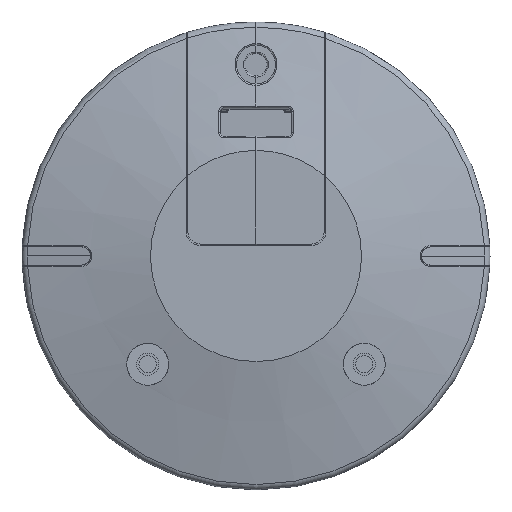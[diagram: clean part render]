
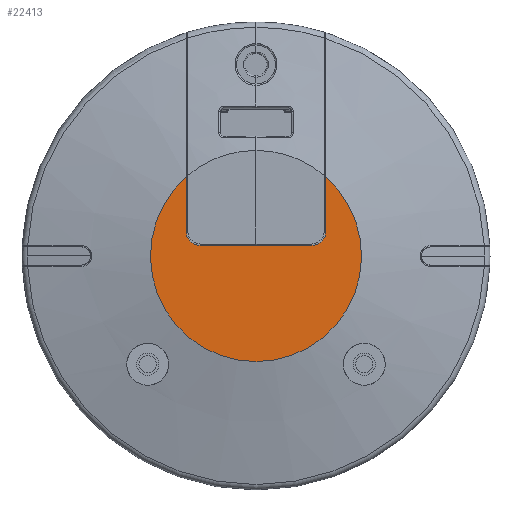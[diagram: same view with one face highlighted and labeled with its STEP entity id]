
A CAD part, front view. The second image highlights one B-rep face of the part: STEP entity #22413.
In plain terms, the highlighted planar face has unit normal (0, -1, 0).
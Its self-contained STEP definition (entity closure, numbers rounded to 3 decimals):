
#966 = VERTEX_POINT ( 'NONE', #37719 ) ;
#1340 = AXIS2_PLACEMENT_3D ( 'NONE', #36674, #40326, #15765 ) ;
#1614 = DIRECTION ( 'NONE',  ( 0., 0., -1. ) ) ;
#2037 = DIRECTION ( 'NONE',  ( 0., 0., -1. ) ) ;
#2265 = EDGE_CURVE ( 'NONE', #4895, #17400, #44780, .T. ) ;
#4895 = VERTEX_POINT ( 'NONE', #19363 ) ;
#5767 = ORIENTED_EDGE ( 'NONE', *, *, #14557, .T. ) ;
#6268 = CARTESIAN_POINT ( 'NONE',  ( 10., -8., 1.5 ) ) ;
#8733 = VECTOR ( 'NONE', #35096, 1000. ) ;
#9332 = DIRECTION ( 'NONE',  ( 0., 1., 0. ) ) ;
#10408 = DIRECTION ( 'NONE',  ( 0., -1., 0. ) ) ;
#11293 = VECTOR ( 'NONE', #19559, 1000. ) ;
#13239 = EDGE_CURVE ( 'NONE', #966, #42862, #37549, .T. ) ;
#13644 = DIRECTION ( 'NONE',  ( 0., 0., -1. ) ) ;
#14557 = EDGE_CURVE ( 'NONE', #17400, #37434, #18975, .T. ) ;
#14567 = CIRCLE ( 'NONE', #16029, 2. ) ;
#15381 = DIRECTION ( 'NONE',  ( 0., -1., 0. ) ) ;
#15765 = DIRECTION ( 'NONE',  ( 0., 0., -1. ) ) ;
#16029 = AXIS2_PLACEMENT_3D ( 'NONE', #34200, #9332, #37260 ) ;
#16389 = CIRCLE ( 'NONE', #1340, 2. ) ;
#17400 = VERTEX_POINT ( 'NONE', #18570 ) ;
#17513 = ORIENTED_EDGE ( 'NONE', *, *, #2265, .T. ) ;
#17653 = CARTESIAN_POINT ( 'NONE',  ( 10., -8., 3.5 ) ) ;
#17752 = EDGE_LOOP ( 'NONE', ( #5767, #19557, #39980, #40146, #29665, #17513 ) ) ;
#18570 = CARTESIAN_POINT ( 'NONE',  ( 10., -8., 11.331 ) ) ;
#18975 = LINE ( 'NONE', #36559, #36872 ) ;
#19363 = CARTESIAN_POINT ( 'NONE',  ( -10., -8., 11.331 ) ) ;
#19557 = ORIENTED_EDGE ( 'NONE', *, *, #41527, .T. ) ;
#19559 = DIRECTION ( 'NONE',  ( 0., 0., 1. ) ) ;
#22413 = ADVANCED_FACE ( 'NONE', ( #35864 ), #35990, .T. ) ;
#22762 = LINE ( 'NONE', #26643, #11293 ) ;
#23374 = EDGE_CURVE ( 'NONE', #30604, #4895, #22762, .T. ) ;
#26643 = CARTESIAN_POINT ( 'NONE',  ( -10., -8., 6.5 ) ) ;
#29665 = ORIENTED_EDGE ( 'NONE', *, *, #23374, .T. ) ;
#30604 = VERTEX_POINT ( 'NONE', #39101 ) ;
#31144 = EDGE_CURVE ( 'NONE', #42862, #30604, #14567, .T. ) ;
#34200 = CARTESIAN_POINT ( 'NONE',  ( -8., -8., 3.5 ) ) ;
#35096 = DIRECTION ( 'NONE',  ( -1., 0., 0. ) ) ;
#35864 = FACE_OUTER_BOUND ( 'NONE', #17752, .T. ) ;
#35990 = PLANE ( 'NONE',  #39765 ) ;
#36146 = CARTESIAN_POINT ( 'NONE',  ( 0., -8., 0. ) ) ;
#36559 = CARTESIAN_POINT ( 'NONE',  ( 10., -8., 6.5 ) ) ;
#36674 = CARTESIAN_POINT ( 'NONE',  ( 8., -8., 3.5 ) ) ;
#36872 = VECTOR ( 'NONE', #2037, 1000. ) ;
#37260 = DIRECTION ( 'NONE',  ( 0., 0., -1. ) ) ;
#37434 = VERTEX_POINT ( 'NONE', #17653 ) ;
#37549 = LINE ( 'NONE', #6268, #8733 ) ;
#37719 = CARTESIAN_POINT ( 'NONE',  ( 8., -8., 1.5 ) ) ;
#39101 = CARTESIAN_POINT ( 'NONE',  ( -10., -8., 3.5 ) ) ;
#39765 = AXIS2_PLACEMENT_3D ( 'NONE', #36146, #15381, #1614 ) ;
#39980 = ORIENTED_EDGE ( 'NONE', *, *, #13239, .T. ) ;
#40146 = ORIENTED_EDGE ( 'NONE', *, *, #31144, .T. ) ;
#40326 = DIRECTION ( 'NONE',  ( 0., 1., 0. ) ) ;
#41527 = EDGE_CURVE ( 'NONE', #37434, #966, #16389, .T. ) ;
#42285 = AXIS2_PLACEMENT_3D ( 'NONE', #44699, #10408, #13644 ) ;
#42862 = VERTEX_POINT ( 'NONE', #44779 ) ;
#44699 = CARTESIAN_POINT ( 'NONE',  ( 0., -8., 0. ) ) ;
#44779 = CARTESIAN_POINT ( 'NONE',  ( -8., -8., 1.5 ) ) ;
#44780 = CIRCLE ( 'NONE', #42285, 15.113 ) ;
